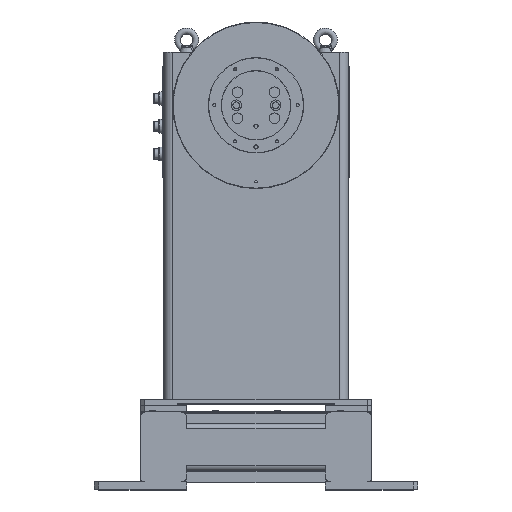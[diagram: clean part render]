
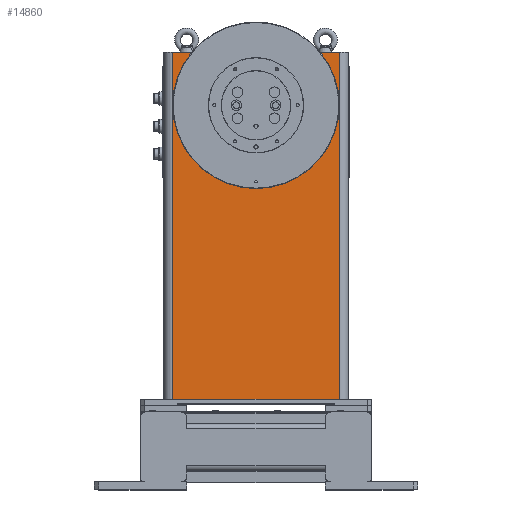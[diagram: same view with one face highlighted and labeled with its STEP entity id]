
A CAD part, top view. The second image highlights one B-rep face of the part: STEP entity #14860.
In plain terms, the highlighted planar face has unit normal (0, 0, 1).
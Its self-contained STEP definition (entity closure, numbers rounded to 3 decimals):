
#118 = CARTESIAN_POINT ( 'NONE',  ( 200.917, 864.908, 775.073 ) ) ;
#145 = VERTEX_POINT ( 'NONE', #7154 ) ;
#246 = VECTOR ( 'NONE', #11926, 1000. ) ;
#404 = VECTOR ( 'NONE', #4745, 1000. ) ;
#420 = EDGE_LOOP ( 'NONE', ( #8592 ) ) ;
#423 = DIRECTION ( 'NONE',  ( 0., 0., 1. ) ) ;
#434 = ORIENTED_EDGE ( 'NONE', *, *, #803, .F. ) ;
#744 = DIRECTION ( 'NONE',  ( -1., 0., 0. ) ) ;
#765 = CARTESIAN_POINT ( 'NONE',  ( 200.917, 864.908, 775.073 ) ) ;
#803 = EDGE_CURVE ( 'NONE', #7606, #12835, #14225, .T. ) ;
#952 = FACE_BOUND ( 'NONE', #6602, .T. ) ;
#1560 = EDGE_CURVE ( 'NONE', #145, #145, #7832, .T. ) ;
#1562 = AXIS2_PLACEMENT_3D ( 'NONE', #8061, #5565, #744 ) ;
#1627 = ORIENTED_EDGE ( 'NONE', *, *, #10300, .F. ) ;
#1656 = CARTESIAN_POINT ( 'NONE',  ( 200.917, 114.908, 775.073 ) ) ;
#1689 = ORIENTED_EDGE ( 'NONE', *, *, #14916, .T. ) ;
#1761 = VERTEX_POINT ( 'NONE', #14880 ) ;
#1923 = CARTESIAN_POINT ( 'NONE',  ( 200.917, 864.908, 775.073 ) ) ;
#2337 = VERTEX_POINT ( 'NONE', #15790 ) ;
#2548 = ORIENTED_EDGE ( 'NONE', *, *, #5389, .T. ) ;
#2840 = DIRECTION ( 'NONE',  ( 0., 0., 1. ) ) ;
#3023 = ORIENTED_EDGE ( 'NONE', *, *, #4898, .F. ) ;
#3136 = DIRECTION ( 'NONE',  ( 1., 0., 0. ) ) ;
#3678 = DIRECTION ( 'NONE',  ( -1., 0., 0. ) ) ;
#3679 = CIRCLE ( 'NONE', #10091, 2.5 ) ;
#3775 = CIRCLE ( 'NONE', #17077, 6.5 ) ;
#3891 = VERTEX_POINT ( 'NONE', #5121 ) ;
#4475 = CARTESIAN_POINT ( 'NONE',  ( 20.917, 584.908, 775.073 ) ) ;
#4497 = FACE_BOUND ( 'NONE', #15395, .T. ) ;
#4745 = DIRECTION ( 'NONE',  ( 1., 0., 0. ) ) ;
#4898 = EDGE_CURVE ( 'NONE', #16639, #16639, #3775, .T. ) ;
#5121 = CARTESIAN_POINT ( 'NONE',  ( -159.083, 864.908, 775.073 ) ) ;
#5157 = CARTESIAN_POINT ( 'NONE',  ( 200.917, 114.908, 775.073 ) ) ;
#5389 = EDGE_CURVE ( 'NONE', #2337, #12835, #17300, .T. ) ;
#5483 = EDGE_CURVE ( 'NONE', #15787, #15787, #12424, .T. ) ;
#5565 = DIRECTION ( 'NONE',  ( 0., 0., -1. ) ) ;
#6099 = CIRCLE ( 'NONE', #7953, 100. ) ;
#6316 = ORIENTED_EDGE ( 'NONE', *, *, #5483, .T. ) ;
#6326 = LINE ( 'NONE', #17092, #16250 ) ;
#6529 = CARTESIAN_POINT ( 'NONE',  ( -6.583, 619.908, 775.073 ) ) ;
#6602 = EDGE_LOOP ( 'NONE', ( #1689 ) ) ;
#7032 = DIRECTION ( 'NONE',  ( 1., 0., 0. ) ) ;
#7154 = CARTESIAN_POINT ( 'NONE',  ( 38.917, 619.908, 775.073 ) ) ;
#7606 = VERTEX_POINT ( 'NONE', #1923 ) ;
#7700 = CARTESIAN_POINT ( 'NONE',  ( 200.917, 864.908, 775.073 ) ) ;
#7832 = CIRCLE ( 'NONE', #9994, 18. ) ;
#7880 = DIRECTION ( 'NONE',  ( -1., 0., 0. ) ) ;
#7953 = AXIS2_PLACEMENT_3D ( 'NONE', #10956, #2840, #12310 ) ;
#8061 = CARTESIAN_POINT ( 'NONE',  ( 48.417, 619.908, 775.073 ) ) ;
#8270 = AXIS2_PLACEMENT_3D ( 'NONE', #7700, #11789, #3678 ) ;
#8516 = DIRECTION ( 'NONE',  ( 1., 0., 0. ) ) ;
#8592 = ORIENTED_EDGE ( 'NONE', *, *, #17369, .F. ) ;
#8744 = CARTESIAN_POINT ( 'NONE',  ( 27.417, 584.908, 775.073 ) ) ;
#8944 = EDGE_LOOP ( 'NONE', ( #2548, #434, #1627, #9372 ) ) ;
#8997 = DIRECTION ( 'NONE',  ( 0., -1., 0. ) ) ;
#9372 = ORIENTED_EDGE ( 'NONE', *, *, #10421, .T. ) ;
#9884 = CARTESIAN_POINT ( 'NONE',  ( 20.917, 619.908, 775.073 ) ) ;
#9994 = AXIS2_PLACEMENT_3D ( 'NONE', #9884, #423, #8516 ) ;
#10091 = AXIS2_PLACEMENT_3D ( 'NONE', #6529, #15977, #7880 ) ;
#10300 = EDGE_CURVE ( 'NONE', #3891, #7606, #11172, .T. ) ;
#10421 = EDGE_CURVE ( 'NONE', #3891, #2337, #6326, .T. ) ;
#10956 = CARTESIAN_POINT ( 'NONE',  ( 20.917, 749.908, 775.073 ) ) ;
#11037 = CARTESIAN_POINT ( 'NONE',  ( -79.083, 749.908, 775.073 ) ) ;
#11172 = LINE ( 'NONE', #765, #404 ) ;
#11306 = ORIENTED_EDGE ( 'NONE', *, *, #1560, .F. ) ;
#11730 = FACE_BOUND ( 'NONE', #13323, .T. ) ;
#11789 = DIRECTION ( 'NONE',  ( 0., 0., -1. ) ) ;
#11903 = VERTEX_POINT ( 'NONE', #11037 ) ;
#11926 = DIRECTION ( 'NONE',  ( 0., -1., 0. ) ) ;
#12310 = DIRECTION ( 'NONE',  ( -1., 0., 0. ) ) ;
#12424 = CIRCLE ( 'NONE', #1562, 2.5 ) ;
#12599 = DIRECTION ( 'NONE',  ( 0., 0., 1. ) ) ;
#12835 = VERTEX_POINT ( 'NONE', #5157 ) ;
#13244 = EDGE_LOOP ( 'NONE', ( #3023 ) ) ;
#13323 = EDGE_LOOP ( 'NONE', ( #6316 ) ) ;
#13710 = VECTOR ( 'NONE', #7032, 1000. ) ;
#14225 = LINE ( 'NONE', #118, #246 ) ;
#14860 = ADVANCED_FACE ( 'NONE', ( #952, #11730, #15320, #4497, #14889, #15741 ), #17172, .F. ) ;
#14880 = CARTESIAN_POINT ( 'NONE',  ( -9.083, 619.908, 775.073 ) ) ;
#14889 = FACE_OUTER_BOUND ( 'NONE', #8944, .T. ) ;
#14916 = EDGE_CURVE ( 'NONE', #1761, #1761, #3679, .T. ) ;
#15320 = FACE_BOUND ( 'NONE', #13244, .T. ) ;
#15395 = EDGE_LOOP ( 'NONE', ( #11306 ) ) ;
#15547 = CARTESIAN_POINT ( 'NONE',  ( 45.917, 619.908, 775.073 ) ) ;
#15741 = FACE_BOUND ( 'NONE', #420, .T. ) ;
#15787 = VERTEX_POINT ( 'NONE', #15547 ) ;
#15790 = CARTESIAN_POINT ( 'NONE',  ( -159.083, 114.908, 775.073 ) ) ;
#15977 = DIRECTION ( 'NONE',  ( 0., 0., -1. ) ) ;
#16250 = VECTOR ( 'NONE', #8997, 1000. ) ;
#16639 = VERTEX_POINT ( 'NONE', #8744 ) ;
#17077 = AXIS2_PLACEMENT_3D ( 'NONE', #4475, #12599, #3136 ) ;
#17092 = CARTESIAN_POINT ( 'NONE',  ( -159.083, 864.908, 775.073 ) ) ;
#17172 = PLANE ( 'NONE',  #8270 ) ;
#17300 = LINE ( 'NONE', #1656, #13710 ) ;
#17369 = EDGE_CURVE ( 'NONE', #11903, #11903, #6099, .T. ) ;
